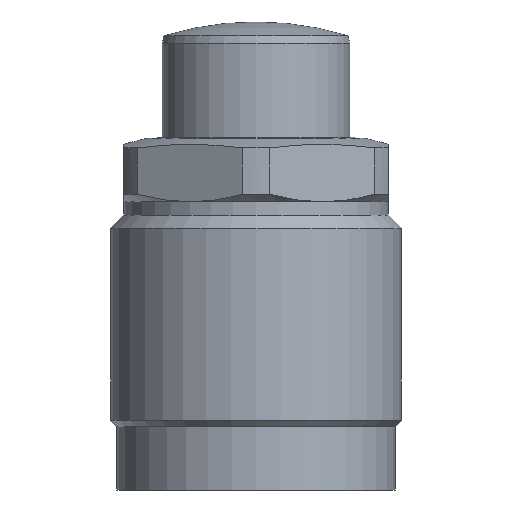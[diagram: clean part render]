
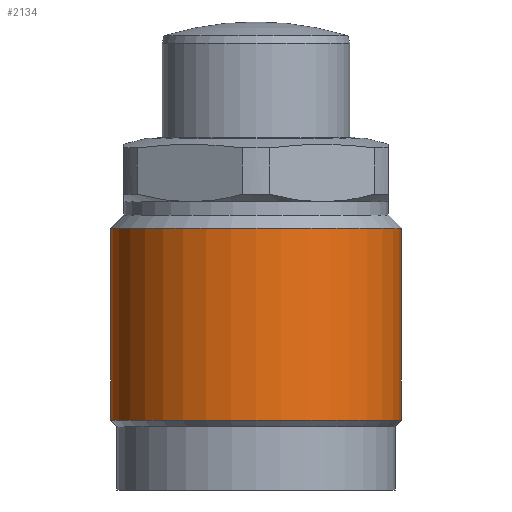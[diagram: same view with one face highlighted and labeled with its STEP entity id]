
A CAD part, front view. The second image highlights one B-rep face of the part: STEP entity #2134.
In plain terms, the highlighted cylindrical face has radius 27.5 mm (diameter 55 mm), a partial arc.
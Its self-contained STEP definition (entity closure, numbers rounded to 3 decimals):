
#135 = CARTESIAN_POINT ( 'NONE',  ( 27.5, 0., -53.3 ) ) ;
#136 = CARTESIAN_POINT ( 'NONE',  ( 27.5, 0., -17. ) ) ;
#137 = CARTESIAN_POINT ( 'NONE',  ( -27.5, 0., -53.3 ) ) ;
#138 = CARTESIAN_POINT ( 'NONE',  ( -27.5, 0., -17. ) ) ;
#189 = CARTESIAN_POINT ( 'NONE',  ( -27.5, 0., 6.379 ) ) ;
#191 = LINE ( 'NONE', #189, #642 ) ;
#195 = DIRECTION ( 'NONE',  ( 0., 0., 1. ) ) ;
#196 = LINE ( 'NONE', #198, #635 ) ;
#198 = CARTESIAN_POINT ( 'NONE',  ( 27.5, 0., 6.379 ) ) ;
#199 = DIRECTION ( 'NONE',  ( 0., 0., 1. ) ) ;
#319 = CARTESIAN_POINT ( 'NONE',  ( 0., 0., -53.3 ) ) ;
#320 = DIRECTION ( 'NONE',  ( 0., 0., 1. ) ) ;
#321 = DIRECTION ( 'NONE',  ( 1., 0., 0. ) ) ;
#323 = CARTESIAN_POINT ( 'NONE',  ( 0., 0., -17. ) ) ;
#324 = DIRECTION ( 'NONE',  ( 0., 0., 1. ) ) ;
#325 = DIRECTION ( 'NONE',  ( 1., 0., 0. ) ) ;
#430 = DIRECTION ( 'NONE',  ( 0., 0., 1. ) ) ;
#432 = FACE_OUTER_BOUND ( 'NONE', #1189, .T. ) ;
#433 = CARTESIAN_POINT ( 'NONE',  ( 0., 0., 6.379 ) ) ;
#435 = CYLINDRICAL_SURFACE ( 'NONE', #705, 27.5 ) ;
#436 = DIRECTION ( 'NONE',  ( 1., 0., 0. ) ) ;
#635 = VECTOR ( 'NONE', #199, 1000. ) ;
#642 = VECTOR ( 'NONE', #195, 1000. ) ;
#672 = CIRCLE ( 'NONE', #675, 27.5 ) ;
#674 = CIRCLE ( 'NONE', #677, 27.5 ) ;
#675 = AXIS2_PLACEMENT_3D ( 'NONE', #319, #320, #321 ) ;
#677 = AXIS2_PLACEMENT_3D ( 'NONE', #323, #324, #325 ) ;
#705 = AXIS2_PLACEMENT_3D ( 'NONE', #433, #430, #436 ) ;
#1189 = EDGE_LOOP ( 'NONE', ( #1757, #1756, #1759, #1758 ) ) ;
#1284 = VERTEX_POINT ( 'NONE', #135 ) ;
#1285 = VERTEX_POINT ( 'NONE', #136 ) ;
#1286 = VERTEX_POINT ( 'NONE', #137 ) ;
#1287 = VERTEX_POINT ( 'NONE', #138 ) ;
#1756 = ORIENTED_EDGE ( 'NONE', *, *, #2043, .T. ) ;
#1757 = ORIENTED_EDGE ( 'NONE', *, *, #2015, .F. ) ;
#1758 = ORIENTED_EDGE ( 'NONE', *, *, #2044, .F. ) ;
#1759 = ORIENTED_EDGE ( 'NONE', *, *, #2016, .T. ) ;
#2015 = EDGE_CURVE ( 'NONE', #1286, #1287, #191, .T. ) ;
#2016 = EDGE_CURVE ( 'NONE', #1284, #1285, #196, .T. ) ;
#2043 = EDGE_CURVE ( 'NONE', #1286, #1284, #672, .T. ) ;
#2044 = EDGE_CURVE ( 'NONE', #1287, #1285, #674, .T. ) ;
#2134 = ADVANCED_FACE ( 'NONE', ( #432 ), #435, .T. ) ;
